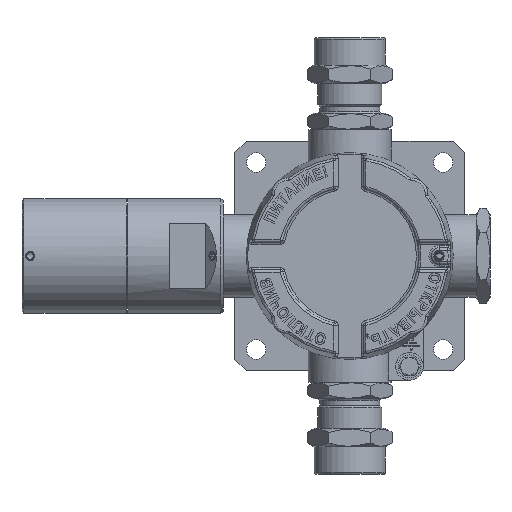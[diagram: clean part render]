
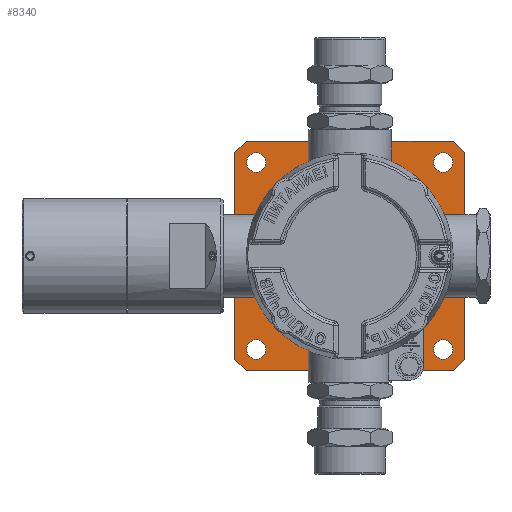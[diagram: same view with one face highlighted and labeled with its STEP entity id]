
A CAD part, front view. The second image highlights one B-rep face of the part: STEP entity #8340.
In plain terms, the highlighted planar face has unit normal (0, -1, 0) as drawn and (0, 0, -1) by its records, which use the part's own axes.
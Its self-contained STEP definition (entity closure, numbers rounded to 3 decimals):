
#8340=ADVANCED_FACE('',(#43204,#43206,#43208,#43210,#43212,#43214,#43216,#43218,
#43220,#43222),#43224,.F.);
#43204=FACE_BOUND('',#43205,.T.);
#43205=EDGE_LOOP('',(#72927));
#43206=FACE_BOUND('',#43207,.T.);
#43207=EDGE_LOOP('',(#72928));
#43208=FACE_BOUND('',#43209,.T.);
#43209=EDGE_LOOP('',(#72929));
#43210=FACE_BOUND('',#43211,.T.);
#43211=EDGE_LOOP('',(#72930));
#43212=FACE_BOUND('',#43213,.T.);
#43213=EDGE_LOOP('',(#72931));
#43214=FACE_BOUND('',#43215,.T.);
#43215=EDGE_LOOP('',(#72932));
#43216=FACE_BOUND('',#43217,.T.);
#43217=EDGE_LOOP('',(#72933));
#43218=FACE_BOUND('',#43219,.T.);
#43219=EDGE_LOOP('',(#72934));
#43220=FACE_BOUND('',#43221,.T.);
#43221=EDGE_LOOP('',(#72935));
#43222=FACE_OUTER_BOUND('',#43223,.T.);
#43223=EDGE_LOOP('',(#72936,#72937,#72938,#72939,#72940,#72941,#72942,#72943));
#43224=PLANE('',#43225);
#43225=AXIS2_PLACEMENT_3D('',#43226,#43227,#43228);
#43226=CARTESIAN_POINT('',(0.,0.,0.));
#43227=DIRECTION('',(0.,0.,1.));
#43228=DIRECTION('',(1.,0.,0.));
#72927=ORIENTED_EDGE('',*,*,#94214,.T.);
#72928=ORIENTED_EDGE('',*,*,#94211,.T.);
#72929=ORIENTED_EDGE('',*,*,#94208,.T.);
#72930=ORIENTED_EDGE('',*,*,#94205,.T.);
#72931=ORIENTED_EDGE('',*,*,#94236,.T.);
#72932=ORIENTED_EDGE('',*,*,#94237,.T.);
#72933=ORIENTED_EDGE('',*,*,#94238,.T.);
#72934=ORIENTED_EDGE('',*,*,#94239,.T.);
#72935=ORIENTED_EDGE('',*,*,#94240,.T.);
#72936=ORIENTED_EDGE('',*,*,#94241,.F.);
#72937=ORIENTED_EDGE('',*,*,#94242,.F.);
#72938=ORIENTED_EDGE('',*,*,#94243,.F.);
#72939=ORIENTED_EDGE('',*,*,#94244,.F.);
#72940=ORIENTED_EDGE('',*,*,#94245,.F.);
#72941=ORIENTED_EDGE('',*,*,#94246,.F.);
#72942=ORIENTED_EDGE('',*,*,#94247,.F.);
#72943=ORIENTED_EDGE('',*,*,#94248,.F.);
#94205=EDGE_CURVE('',#106923,#106923,#106925,.T.);
#94208=EDGE_CURVE('',#106928,#106928,#106930,.T.);
#94211=EDGE_CURVE('',#106933,#106933,#106935,.T.);
#94214=EDGE_CURVE('',#106938,#106938,#106940,.T.);
#94236=EDGE_CURVE('',#106979,#106979,#106980,.T.);
#94237=EDGE_CURVE('',#106981,#106981,#106982,.T.);
#94238=EDGE_CURVE('',#106983,#106983,#106984,.T.);
#94239=EDGE_CURVE('',#106985,#106985,#106986,.T.);
#94240=EDGE_CURVE('',#106987,#106987,#106988,.T.);
#94241=EDGE_CURVE('',#106989,#106990,#106991,.T.);
#94242=EDGE_CURVE('',#106992,#106989,#106993,.T.);
#94243=EDGE_CURVE('',#106994,#106992,#106995,.T.);
#94244=EDGE_CURVE('',#106996,#106994,#106997,.T.);
#94245=EDGE_CURVE('',#106998,#106996,#106999,.T.);
#94246=EDGE_CURVE('',#107000,#106998,#107001,.T.);
#94247=EDGE_CURVE('',#107002,#107000,#107003,.T.);
#94248=EDGE_CURVE('',#106990,#107002,#107004,.T.);
#106923=VERTEX_POINT('',#138718);
#106925=CIRCLE('',#138722,2.75);
#106928=VERTEX_POINT('',#138731);
#106930=CIRCLE('',#138735,2.75);
#106933=VERTEX_POINT('',#138744);
#106935=CIRCLE('',#138748,2.75);
#106938=VERTEX_POINT('',#138757);
#106940=CIRCLE('',#138761,2.75);
#106979=VERTEX_POINT('',#138854);
#106980=CIRCLE('',#138855,4.25);
#106981=VERTEX_POINT('',#138859);
#106982=CIRCLE('',#138860,4.25);
#106983=VERTEX_POINT('',#138864);
#106984=CIRCLE('',#138865,4.25);
#106985=VERTEX_POINT('',#138869);
#106986=CIRCLE('',#138870,4.25);
#106987=VERTEX_POINT('',#138874);
#106988=CIRCLE('',#138875,20.);
#106989=VERTEX_POINT('',#138879);
#106990=VERTEX_POINT('',#138880);
#106991=LINE('',#138881,#138882);
#106992=VERTEX_POINT('',#138884);
#106993=LINE('',#138885,#138886);
#106994=VERTEX_POINT('',#138888);
#106995=LINE('',#138889,#138890);
#106996=VERTEX_POINT('',#138892);
#106997=LINE('',#138893,#138894);
#106998=VERTEX_POINT('',#138896);
#106999=LINE('',#138897,#138898);
#107000=VERTEX_POINT('',#138900);
#107001=LINE('',#138901,#138902);
#107002=VERTEX_POINT('',#138904);
#107003=LINE('',#138905,#138906);
#107004=LINE('',#138908,#138909);
#138718=CARTESIAN_POINT('',(-22.706,25.456,0.));
#138722=AXIS2_PLACEMENT_3D('',#138723,#138724,#138725);
#138723=CARTESIAN_POINT('',(-25.456,25.456,0.));
#138724=DIRECTION('',(0.,0.,1.));
#138725=DIRECTION('',(1.,0.,0.));
#138731=CARTESIAN_POINT('',(28.206,25.456,0.));
#138735=AXIS2_PLACEMENT_3D('',#138736,#138737,#138738);
#138736=CARTESIAN_POINT('',(25.456,25.456,0.));
#138737=DIRECTION('',(0.,0.,1.));
#138738=DIRECTION('',(1.,0.,0.));
#138744=CARTESIAN_POINT('',(28.206,-25.456,0.));
#138748=AXIS2_PLACEMENT_3D('',#138749,#138750,#138751);
#138749=CARTESIAN_POINT('',(25.456,-25.456,0.));
#138750=DIRECTION('',(0.,0.,1.));
#138751=DIRECTION('',(1.,0.,0.));
#138757=CARTESIAN_POINT('',(-22.706,-25.456,0.));
#138761=AXIS2_PLACEMENT_3D('',#138762,#138763,#138764);
#138762=CARTESIAN_POINT('',(-25.456,-25.456,0.));
#138763=DIRECTION('',(0.,0.,1.));
#138764=DIRECTION('',(1.,0.,0.));
#138854=CARTESIAN_POINT('',(44.909,40.659,0.));
#138855=AXIS2_PLACEMENT_3D('',#138856,#138857,#138858);
#138856=CARTESIAN_POINT('',(40.659,40.659,0.));
#138857=DIRECTION('',(0.,0.,1.));
#138858=DIRECTION('',(1.,0.,0.));
#138859=CARTESIAN_POINT('',(44.909,-40.659,0.));
#138860=AXIS2_PLACEMENT_3D('',#138861,#138862,#138863);
#138861=CARTESIAN_POINT('',(40.659,-40.659,0.));
#138862=DIRECTION('',(0.,0.,1.));
#138863=DIRECTION('',(1.,0.,0.));
#138864=CARTESIAN_POINT('',(-36.409,-40.659,0.));
#138865=AXIS2_PLACEMENT_3D('',#138866,#138867,#138868);
#138866=CARTESIAN_POINT('',(-40.659,-40.659,0.));
#138867=DIRECTION('',(0.,0.,1.));
#138868=DIRECTION('',(1.,0.,0.));
#138869=CARTESIAN_POINT('',(-36.409,40.659,0.));
#138870=AXIS2_PLACEMENT_3D('',#138871,#138872,#138873);
#138871=CARTESIAN_POINT('',(-40.659,40.659,0.));
#138872=DIRECTION('',(0.,0.,1.));
#138873=DIRECTION('',(1.,0.,0.));
#138874=CARTESIAN_POINT('',(20.,0.,0.));
#138875=AXIS2_PLACEMENT_3D('',#138876,#138877,#138878);
#138876=CARTESIAN_POINT('',(0.,0.,0.));
#138877=DIRECTION('',(0.,0.,1.));
#138878=DIRECTION('',(1.,0.,0.));
#138879=CARTESIAN_POINT('',(50.,45.,0.));
#138880=CARTESIAN_POINT('',(45.,50.,0.));
#138881=CARTESIAN_POINT('',(50.,45.,0.));
#138882=VECTOR('',#138883,1.);
#138883=DIRECTION('',(-0.707,0.707,0.));
#138884=CARTESIAN_POINT('',(50.,-45.,0.));
#138885=CARTESIAN_POINT('',(50.,-45.,0.));
#138886=VECTOR('',#138887,1.);
#138887=DIRECTION('',(0.,1.,0.));
#138888=CARTESIAN_POINT('',(45.,-50.,0.));
#138889=CARTESIAN_POINT('',(45.,-50.,0.));
#138890=VECTOR('',#138891,1.);
#138891=DIRECTION('',(0.707,0.707,0.));
#138892=CARTESIAN_POINT('',(-45.,-50.,0.));
#138893=CARTESIAN_POINT('',(-45.,-50.,0.));
#138894=VECTOR('',#138895,1.);
#138895=DIRECTION('',(1.,0.,0.));
#138896=CARTESIAN_POINT('',(-50.,-45.,0.));
#138897=CARTESIAN_POINT('',(-50.,-45.,0.));
#138898=VECTOR('',#138899,1.);
#138899=DIRECTION('',(0.707,-0.707,0.));
#138900=CARTESIAN_POINT('',(-50.,45.,0.));
#138901=CARTESIAN_POINT('',(-50.,45.,0.));
#138902=VECTOR('',#138903,1.);
#138903=DIRECTION('',(0.,-1.,0.));
#138904=CARTESIAN_POINT('',(-45.,50.,0.));
#138905=CARTESIAN_POINT('',(-45.,50.,0.));
#138906=VECTOR('',#138907,1.);
#138907=DIRECTION('',(-0.707,-0.707,0.));
#138908=CARTESIAN_POINT('',(45.,50.,0.));
#138909=VECTOR('',#138910,1.);
#138910=DIRECTION('',(-1.,0.,0.));
